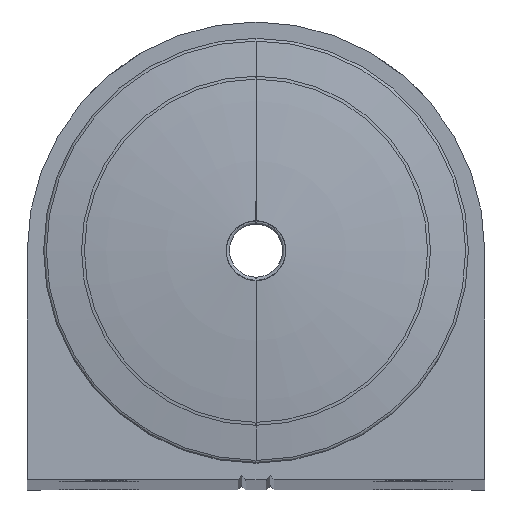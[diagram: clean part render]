
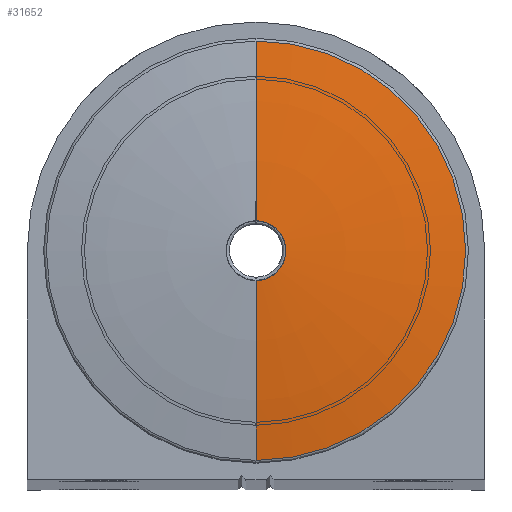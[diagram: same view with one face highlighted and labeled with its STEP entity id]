
A CAD part, top view. The second image highlights one B-rep face of the part: STEP entity #31652.
In plain terms, the highlighted toroidal (fillet/blend) face has major radius 5.57 mm and minor radius 140 mm.
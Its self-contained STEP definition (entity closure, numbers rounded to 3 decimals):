
#757 = EDGE_CURVE ( 'NONE', #8117, #3193, #25341, .T. ) ;
#1596 = DIRECTION ( 'NONE',  ( 0., -1., 0. ) ) ;
#1868 = VERTEX_POINT ( 'NONE', #33741 ) ;
#3193 = VERTEX_POINT ( 'NONE', #5310 ) ;
#3640 = CARTESIAN_POINT ( 'NONE',  ( 6.267, 19.298, 216.017 ) ) ;
#4127 = CARTESIAN_POINT ( 'NONE',  ( 6.267, 27.157, 76.238 ) ) ;
#5310 = CARTESIAN_POINT ( 'NONE',  ( 6.267, 37.626, 214.56 ) ) ;
#5682 = CARTESIAN_POINT ( 'NONE',  ( 6.267, 21.587, 76.238 ) ) ;
#6722 = DIRECTION ( 'NONE',  ( 0., 0., -1. ) ) ;
#7172 = DIRECTION ( 'NONE',  ( 0., 1., 0. ) ) ;
#8117 = VERTEX_POINT ( 'NONE', #32955 ) ;
#9321 = AXIS2_PLACEMENT_3D ( 'NONE', #37638, #19615, #1596 ) ;
#10019 = TOROIDAL_SURFACE ( 'NONE', #12167, -5.57, 140. ) ;
#12167 = AXIS2_PLACEMENT_3D ( 'NONE', #5682, #14740, #35805 ) ;
#13235 = DIRECTION ( 'NONE',  ( 0., 0., 1. ) ) ;
#14740 = DIRECTION ( 'NONE',  ( 0., 0., -1. ) ) ;
#16598 = AXIS2_PLACEMENT_3D ( 'NONE', #24750, #6722, #27774 ) ;
#17335 = CIRCLE ( 'NONE', #16598, 2.289 ) ;
#18526 = ORIENTED_EDGE ( 'NONE', *, *, #757, .F. ) ;
#18773 = CIRCLE ( 'NONE', #20358, 16.039 ) ;
#19615 = DIRECTION ( 'NONE',  ( -1., 0., 0. ) ) ;
#20358 = AXIS2_PLACEMENT_3D ( 'NONE', #31245, #13235, #34313 ) ;
#24206 = FACE_OUTER_BOUND ( 'NONE', #36396, .T. ) ;
#24750 = CARTESIAN_POINT ( 'NONE',  ( 6.267, 21.587, 216.017 ) ) ;
#25227 = DIRECTION ( 'NONE',  ( 1., 0., 0. ) ) ;
#25341 = CIRCLE ( 'NONE', #9321, 140. ) ;
#25345 = EDGE_CURVE ( 'NONE', #8117, #28321, #17335, .T. ) ;
#27774 = DIRECTION ( 'NONE',  ( 0., 1., 0. ) ) ;
#27981 = AXIS2_PLACEMENT_3D ( 'NONE', #4127, #25227, #7172 ) ;
#28251 = ORIENTED_EDGE ( 'NONE', *, *, #30129, .T. ) ;
#28321 = VERTEX_POINT ( 'NONE', #3640 ) ;
#29039 = ORIENTED_EDGE ( 'NONE', *, *, #25345, .T. ) ;
#29059 = ORIENTED_EDGE ( 'NONE', *, *, #37121, .T. ) ;
#30129 = EDGE_CURVE ( 'NONE', #28321, #1868, #30804, .T. ) ;
#30804 = CIRCLE ( 'NONE', #27981, 140. ) ;
#31245 = CARTESIAN_POINT ( 'NONE',  ( 6.267, 21.587, 214.56 ) ) ;
#31652 = ADVANCED_FACE ( 'NONE', ( #24206 ), #10019, .T. ) ;
#32955 = CARTESIAN_POINT ( 'NONE',  ( 6.267, 23.876, 216.017 ) ) ;
#33741 = CARTESIAN_POINT ( 'NONE',  ( 6.267, 5.549, 214.56 ) ) ;
#34313 = DIRECTION ( 'NONE',  ( 0., 1., 0. ) ) ;
#35805 = DIRECTION ( 'NONE',  ( 0., 1., 0. ) ) ;
#36396 = EDGE_LOOP ( 'NONE', ( #29039, #28251, #29059, #18526 ) ) ;
#37121 = EDGE_CURVE ( 'NONE', #1868, #3193, #18773, .T. ) ;
#37638 = CARTESIAN_POINT ( 'NONE',  ( 6.267, 16.017, 76.238 ) ) ;
